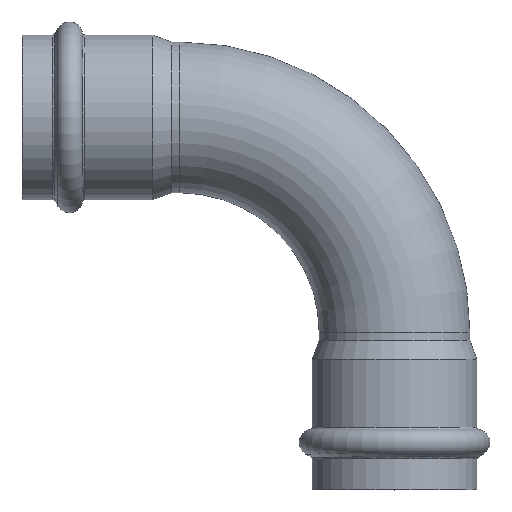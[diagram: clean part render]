
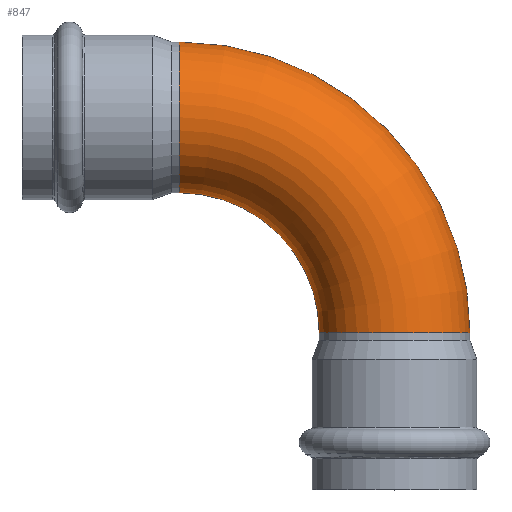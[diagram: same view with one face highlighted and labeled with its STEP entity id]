
A CAD part, top view. The second image highlights one B-rep face of the part: STEP entity #847.
In plain terms, the highlighted toroidal (fillet/blend) face has major radius 50 mm and minor radius 17.5 mm.
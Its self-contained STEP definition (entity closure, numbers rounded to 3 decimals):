
#820=CARTESIAN_POINT('',(0.,-50.,0.0));
#821=DIRECTION('',(0.0,0.0,-1.0));
#822=DIRECTION('',(-1.0,0.0,0.0));
#823=AXIS2_PLACEMENT_3D('',#820,#821,#822);
#824=TOROIDAL_SURFACE('',#823,50.,17.5);
#825=CARTESIAN_POINT('',(67.5,-50.,0.0));
#826=VERTEX_POINT('',#825);
#827=CARTESIAN_POINT('',(50.0,-50.,0.0));
#828=DIRECTION('',(0.0,-1.0,0.0));
#829=DIRECTION('',(1.0,0.0,0.0));
#830=AXIS2_PLACEMENT_3D('',#827,#828,#829);
#831=CIRCLE('',#830,17.5);
#832=EDGE_CURVE('',#826,#826,#831,.T.);
#833=ORIENTED_EDGE('',*,*,#832,.F.);
#834=EDGE_LOOP('',(#833));
#835=FACE_OUTER_BOUND('',#834,.T.);
#836=CARTESIAN_POINT('',(0.,17.5,0.0));
#837=VERTEX_POINT('',#836);
#838=CARTESIAN_POINT('',(0.,0.0,0.0));
#839=DIRECTION('',(1.0,0.0,0.0));
#840=DIRECTION('',(0.0,1.0,0.0));
#841=AXIS2_PLACEMENT_3D('',#838,#839,#840);
#842=CIRCLE('',#841,17.5);
#843=EDGE_CURVE('',#837,#837,#842,.T.);
#844=ORIENTED_EDGE('',*,*,#843,.T.);
#845=EDGE_LOOP('',(#844));
#846=FACE_BOUND('',#845,.T.);
#847=ADVANCED_FACE('',(#835,#846),#824,.T.);
